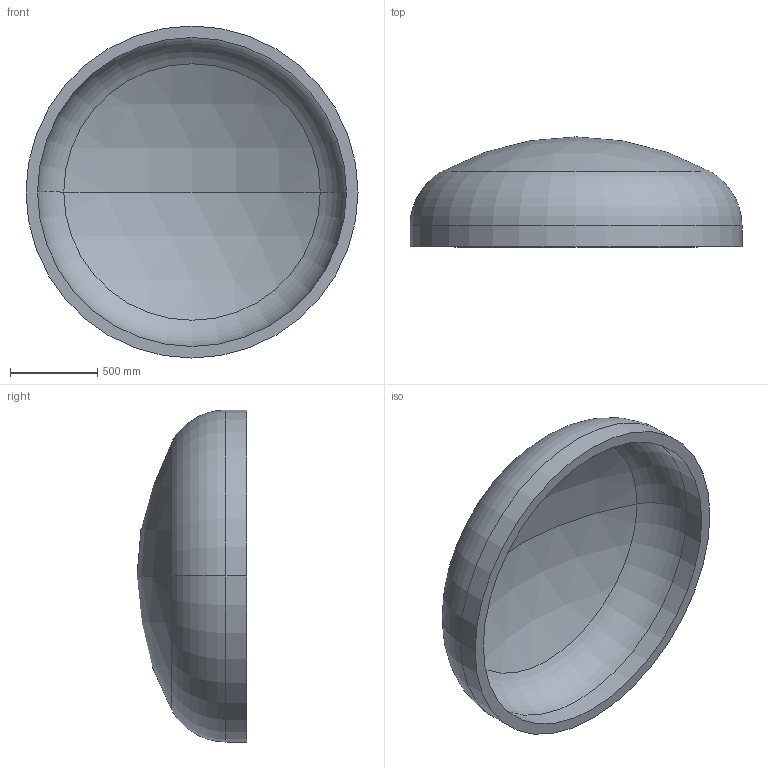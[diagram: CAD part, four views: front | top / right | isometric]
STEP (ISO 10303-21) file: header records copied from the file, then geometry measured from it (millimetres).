
FILE_DESCRIPTION (( 'STEP AP203' ), '1' );
FILE_NAME ('DIN 28013 Korbbogenform_-_Boden DIN 28013 - 1900 x 120 - I - s=66.step', '2016-07-01T13:16:37', ( '' ), ( '' ), 'SwSTEP 2.0', 'SolidWorks 2013', '' );
FILE_SCHEMA (( 'CONFIG_CONTROL_DESIGN' ));
Length unit declared in the file: millimetre
Products named in the file (1): DIN 28013 Korbbogenform_-_Boden DIN 28013 - 1900 x 120 - I - s=66
Bounding box: 1900 x 628.94 x 1900 mm (x, y, z)
Volume: 292904412.2 mm3; surface area: 9265282.8 mm2
Topology: 1 solids, 1 shells, 13 faces, 24 edges, 14 vertices
Faces by surface type: torus 4, cylinder 4, sphere 4, plane 1
Entity records: 407 total; most frequent: DIRECTION 72, CARTESIAN_POINT 52, ORIENTED_EDGE 48, AXIS2_PLACEMENT_3D 34, EDGE_CURVE 24, CIRCLE 20, VERTEX_POINT 14, EDGE_LOOP 14
